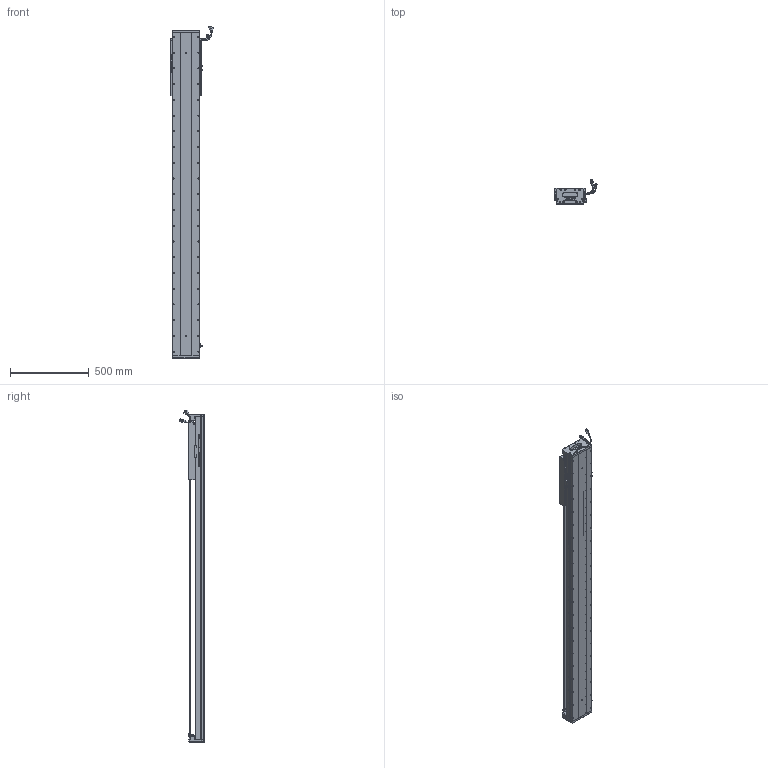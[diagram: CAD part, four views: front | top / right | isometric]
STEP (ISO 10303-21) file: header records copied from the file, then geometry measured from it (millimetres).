
FILE_DESCRIPTION (( 'STEP AP203' ), '1' );
FILE_NAME ('Z5-RY170D-1-L500-B-K.SLDASM_1600.step', '2021-05-18T00:41:15', ( '盈信电脑' ), ( '东莞市道滘镇水果街19号' ), 'SwSTEP 2.0', 'SolidWorks 2016', '' );
FILE_SCHEMA (( 'CONFIG_CONTROL_DESIGN' ));
Length unit declared in the file: millimetre
Products named in the file (36): SCALE-Part-1; 榋妏寠巭燃_暯_M2_2; 140雄赽晤鎢ん堤盄; PSLH080_PSLF2; HOLDER0; SCREW-M1.6-1; SCREW-M1.6; 080黍杅芛假蚾釱21遴; Z-RY170詩湍狟揤裔; SCREW-M1.6-2; SCALE; SEAL-Part-1; COVER-Part-1; HARNESS; Z5-RY170-L500詩湍145mm遵_1600; Z5-RY170-L500耀郪菁釱_1600; SCREW-M1.7; Z5-RY170D-1-L500-B-K.SLDASM_1600; Z-RY170詩湍奻揤裔; Z5-RY170臏賑輸(21遴); HARNESS-Part-1; 140蚥薯蝶輸; 170-Z-臏賑輸盄裔(21遴); COVER; SCREW-M1.6-3; PBU_SHEET; RY170直线电机感应器672光电感应片; HARNESS-Part-2; SCALE-Part-2; SEAL; Z-170詩湍傷裔啣; LABEL-Part-1; 覜茼ん672; SHIELDPLATE; SCREW-M1.7-1; LABEL
Assembly tree (41 placements, depth 4):
  Z5-RY170D-1-L500-B-K.SLDASM_1600
    Z5-RY170-L500耀郪菁釱_1600
    RY170直线电机感应器672光电感应片
    Z5-RY170臏賑輸(21遴)
    覜茼ん672  x3
    PSLH080_PSLF2
      SCALE
        SCALE-Part-1
        SCALE-Part-2
      HARNESS
        HARNESS-Part-1
        HARNESS-Part-2
      LABEL
        LABEL-Part-1
      COVER
        COVER-Part-1
      SEAL
        SEAL-Part-1
      榋妏寠巭燃_暯_M2_2
      SHIELDPLATE
      SCREW-M1.7
      SCREW-M1.7-1
      PBU_SHEET
      SCREW-M1.6
      SCREW-M1.6-1
      SCREW-M1.6-2
      SCREW-M1.6-3
      HOLDER0
    080黍杅芛假蚾釱21遴
    Z5-RY170-L500詩湍145mm遵_1600
    Z-170詩湍傷裔啣  x2
    Z-RY170詩湍奻揤裔  x2
    Z-RY170詩湍狟揤裔  x2
    140蚥薯蝶輸  x2
    170-Z-臏賑輸盄裔(21遴)
    140雄赽晤鎢ん堤盄
Bounding box: 275.34 x 158.11 x 2108.72 mm (x, y, z)
Volume: 11391789.8 mm3; surface area: 2728977.4 mm2
Topology: 36 solids, 36 shells, 3844 faces, 10557 edges, 6613 vertices
Faces by surface type: cylinder 1908, plane 1290, cone 524, torus 69, bspline 53
Entity records: 119177 total; most frequent: CARTESIAN_POINT 32420, ORIENTED_EDGE 17686, DIRECTION 16775, EDGE_CURVE 8843, AXIS2_PLACEMENT_3D 6198, VERTEX_POINT 5731, VECTOR 4379, LINE 4379
